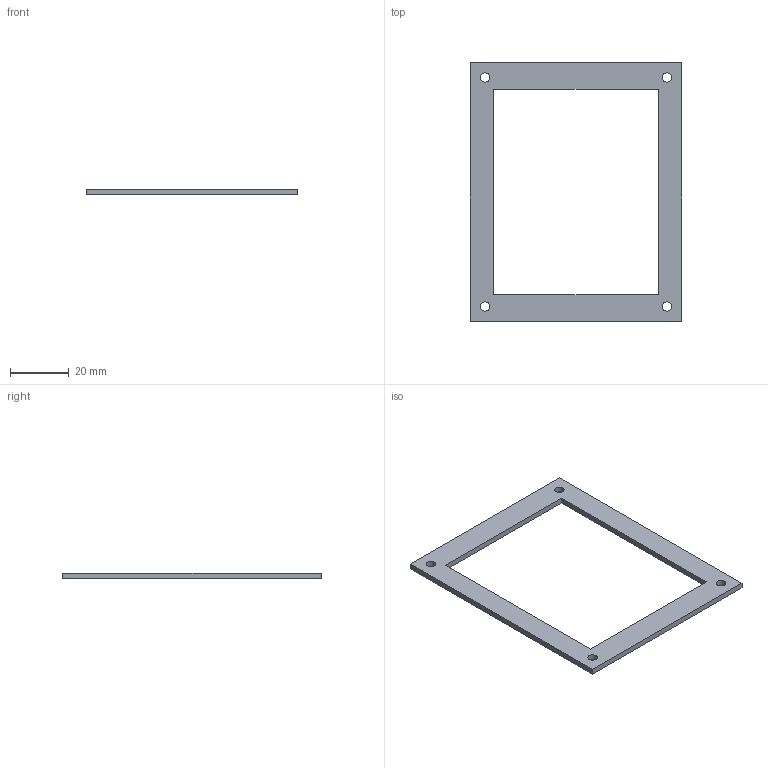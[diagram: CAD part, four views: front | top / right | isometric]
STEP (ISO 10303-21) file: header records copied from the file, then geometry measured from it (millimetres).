
FILE_DESCRIPTION(('Open CASCADE Model'),'2;1');
FILE_NAME('Open CASCADE Shape Model','2026-09-06T11:46:32',('Author'),( 'Open CASCADE'),'Open CASCADE STEP processor 7.7','Open CASCADE 7.7' ,'Unknown');
FILE_SCHEMA(('AUTOMOTIVE_DESIGN { 1 0 10303 214 1 1 1 1 }'));
Length unit declared in the file: millimetre
Products named in the file (1): Open CASCADE STEP translator 7.7 24
Bounding box: 72 x 88 x 2 mm (x, y, z)
Volume: 4767.7 mm3; surface area: 5992.1 mm2
Topology: 1 solids, 1 shells, 14 faces, 36 edges, 24 vertices
Faces by surface type: plane 10, cylinder 4
Full cylindrical faces by diameter (mm): 3.2 x4
Entity records: 934 total; most frequent: CARTESIAN_POINT 211, DIRECTION 122, LINE 76, VECTOR 76, ORIENTED_EDGE 72, PCURVE 72, DEFINITIONAL_REPRESENTATION 72, EDGE_CURVE 36
